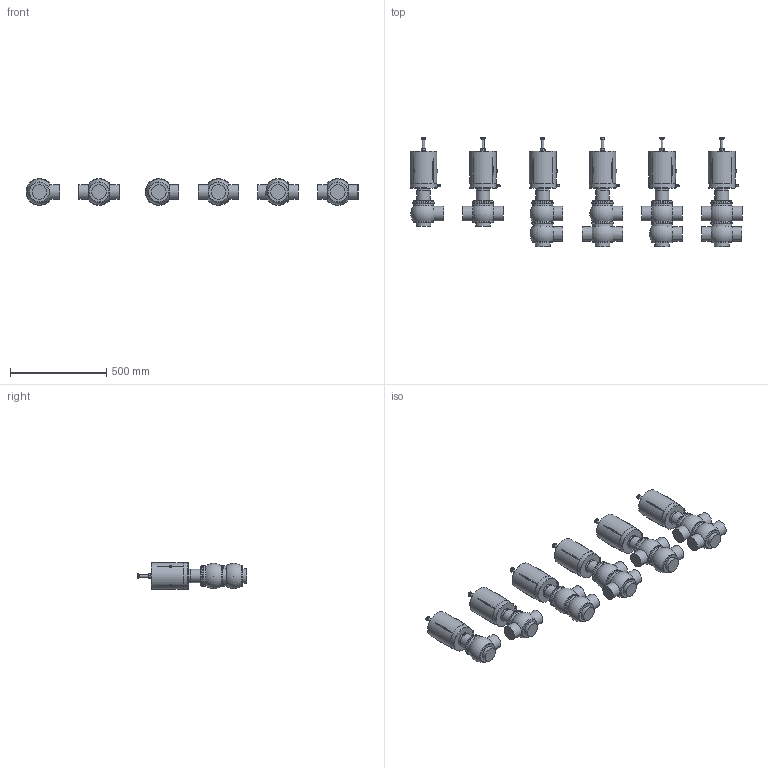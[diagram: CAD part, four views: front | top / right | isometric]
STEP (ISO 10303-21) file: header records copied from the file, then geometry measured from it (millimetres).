
FILE_DESCRIPTION((''),'2;1');
FILE_NAME('\\BV-SRV1\Ufficio tecnico\cad3d\PNEUMATICA\Ing1-1\pne bbzp e derivate\BBZS5\BBZS5-DN761-CIL134-SAL.iam.step','2009-10-19T10:18:21',(''),(''),'Autodesk Inventor 2010','Autodesk Inventor 2010','');
FILE_SCHEMA(('AUTOMOTIVE_DESIGN { 1 0 10303 214 1 1 1 1 }'));
Length unit declared in the file: millimetre
Products named in the file (7): BBZS5-DN761-CIL134-SAL; Assemblaggio-DN080; COR-INF-L-SAL-DN76; COR-INF-T-SAL-DN76; COR-SUP-L-SAL-DN76; COR-SUP-T-SAL-DN76; cil 134 tarabile
Assembly tree (22 placements, depth 2):
  BBZS5-DN761-CIL134-SAL
    Assemblaggio-DN080  x6
    COR-INF-L-SAL-DN76  x3
    COR-INF-T-SAL-DN76  x3
    COR-SUP-L-SAL-DN76  x2
    COR-SUP-T-SAL-DN76  x2
    cil 134 tarabile  x6
Bounding box: 1724.48 x 567.2 x 138.97 mm (x, y, z)
Volume: 35195369.8 mm3; surface area: 1778092.7 mm2
Topology: 22 solids, 28 shells, 1242 faces, 2882 edges, 1717 vertices
Faces by surface type: plane 473, cylinder 307, cone 266, sphere 82, bspline 66, torus 48
Full cylindrical faces by diameter (mm): 4.9 x6, 6 x12, 7 x6, 8.3 x6, 8.566 x18, 10 x6, 11 x6, 11.5 x6, 14 x6, 19.37 x6, 69 x6, 71 x6, 76.1 x21, 105 x26, 113 x20, 138 x6, 139.5 x6
Entity records: 6930 total; most frequent: CARTESIAN_POINT 1750, DIRECTION 1036, ORIENTED_EDGE 864, AXIS2_PLACEMENT_3D 440, EDGE_CURVE 432, EDGE_LOOP 335, VERTEX_POINT 301, FACE_OUTER_BOUND 236
